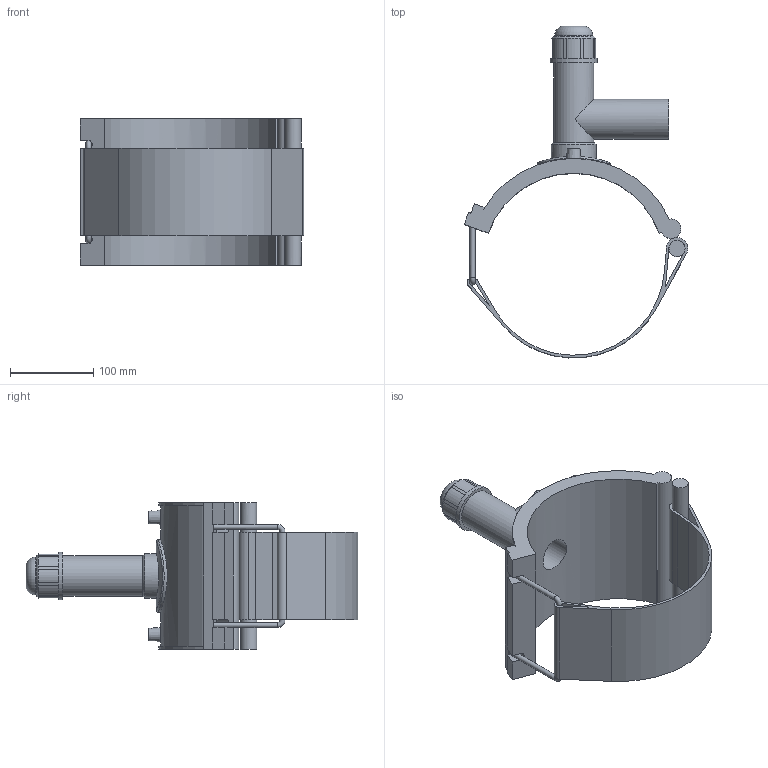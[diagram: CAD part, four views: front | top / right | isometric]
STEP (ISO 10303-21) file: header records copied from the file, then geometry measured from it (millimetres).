
FILE_DESCRIPTION(/* description */ ('PLASSON TAPPING SADDLE 8''''IPS x 1 1/2''''IPS'),/* implementation_level */ '2;1');
FILE_NAME(/* name */ 'C:\Dropbox\KIMPROJECTS-Inventor 2019\99-16-3568-Processing Inch\ASTM ElectroFusion 2021\5963B\5963BB03080015.ipt.stp',/* time_stamp */ '2021-08-30T09:55:49+03:00',/* author */ ('KIM'),/* organization */ (''),/* preprocessor_version */ 'ST-DEVELOPER v17.2',/* originating_system */ 'Autodesk Inventor 2019',/* authorisation */ '');
FILE_SCHEMA (('AUTOMOTIVE_DESIGN { 1 0 10303 214 3 1 1 }'));
Length unit declared in the file: millimetre
Products named in the file (1): 5963BB03080015
Bounding box: 268.63 x 398.85 x 176.02 mm (x, y, z)
Volume: 1363563.4 mm3; surface area: 318268 mm2
Topology: 1 solids, 1 shells, 122 faces, 315 edges, 206 vertices
Faces by surface type: plane 69, cylinder 38, cone 11, torus 3, bspline 1
Full cylindrical faces by diameter (mm): 4 x2, 6.124 x2, 10 x2, 19.347 x1, 38.48 x1, 39.803 x1, 45.49 x1, 48.1 x1, 48.333 x1, 54.019 x1, 56.862 x1, 87.48 x1
Entity records: 4374 total; most frequent: CARTESIAN_POINT 1250, DIRECTION 658, ORIENTED_EDGE 632, EDGE_CURVE 316, AXIS2_PLACEMENT_3D 239, VERTEX_POINT 206, LINE 180, VECTOR 180
